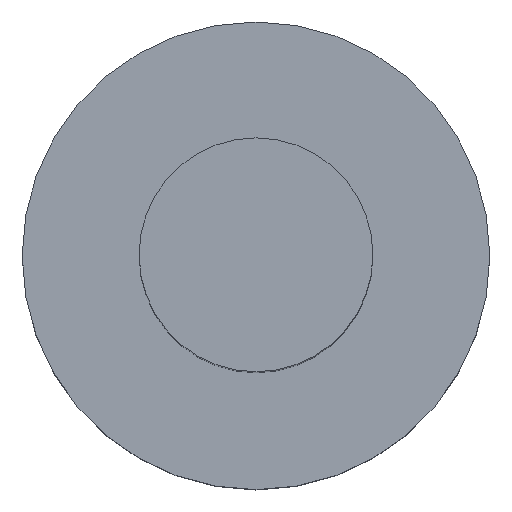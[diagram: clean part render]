
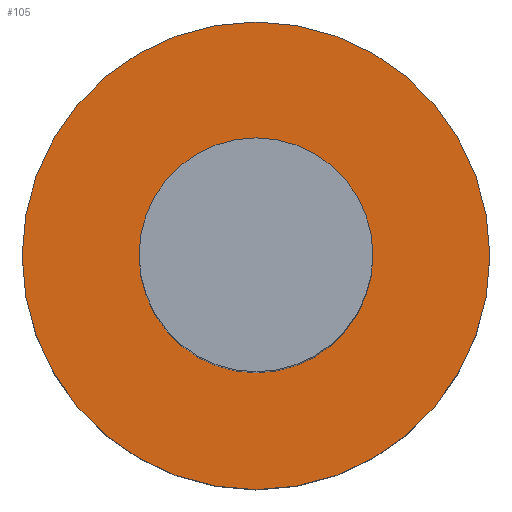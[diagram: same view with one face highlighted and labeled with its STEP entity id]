
A CAD part, top view. The second image highlights one B-rep face of the part: STEP entity #105.
In plain terms, the highlighted planar face has unit normal (0, 0, 1).
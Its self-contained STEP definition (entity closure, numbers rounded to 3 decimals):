
#21 = EDGE_CURVE('',#22,#22,#24,.T.);
#22 = VERTEX_POINT('',#23);
#23 = CARTESIAN_POINT('',(-5.,7.4,-10.9));
#24 = SURFACE_CURVE('',#25,(#30,#42),.PCURVE_S1.);
#25 = CIRCLE('',#26,2.);
#26 = AXIS2_PLACEMENT_3D('',#27,#28,#29);
#27 = CARTESIAN_POINT('',(-7.,7.4,-10.9));
#28 = DIRECTION('',(0.,0.,1.));
#29 = DIRECTION('',(1.,0.,-0.));
#30 = PCURVE('',#31,#36);
#31 = CYLINDRICAL_SURFACE('',#32,2.);
#32 = AXIS2_PLACEMENT_3D('',#33,#34,#35);
#33 = CARTESIAN_POINT('',(-7.,7.4,-12.5));
#34 = DIRECTION('',(0.,0.,1.));
#35 = DIRECTION('',(1.,0.,-0.));
#36 = DEFINITIONAL_REPRESENTATION('',(#37),#41);
#37 = LINE('',#38,#39);
#38 = CARTESIAN_POINT('',(0.,1.6));
#39 = VECTOR('',#40,1.);
#40 = DIRECTION('',(1.,0.));
#41 = ( GEOMETRIC_REPRESENTATION_CONTEXT(2) 
PARAMETRIC_REPRESENTATION_CONTEXT() REPRESENTATION_CONTEXT('2D SPACE',''
  ) );
#42 = PCURVE('',#43,#48);
#43 = PLANE('',#44);
#44 = AXIS2_PLACEMENT_3D('',#45,#46,#47);
#45 = CARTESIAN_POINT('',(-7.,7.4,-10.9));
#46 = DIRECTION('',(0.,0.,1.));
#47 = DIRECTION('',(1.,0.,-0.));
#48 = DEFINITIONAL_REPRESENTATION('',(#49),#53);
#49 = CIRCLE('',#50,2.);
#50 = AXIS2_PLACEMENT_2D('',#51,#52);
#51 = CARTESIAN_POINT('',(0.,0.));
#52 = DIRECTION('',(1.,0.));
#53 = ( GEOMETRIC_REPRESENTATION_CONTEXT(2) 
PARAMETRIC_REPRESENTATION_CONTEXT() REPRESENTATION_CONTEXT('2D SPACE',''
  ) );
#105 = ADVANCED_FACE('',(#106,#109),#43,.T.);
#106 = FACE_BOUND('',#107,.T.);
#107 = EDGE_LOOP('',(#108));
#108 = ORIENTED_EDGE('',*,*,#21,.T.);
#109 = FACE_BOUND('',#110,.T.);
#110 = EDGE_LOOP('',(#111));
#111 = ORIENTED_EDGE('',*,*,#112,.F.);
#112 = EDGE_CURVE('',#113,#113,#115,.T.);
#113 = VERTEX_POINT('',#114);
#114 = CARTESIAN_POINT('',(-6.,7.4,-10.9));
#115 = SURFACE_CURVE('',#116,(#121,#128),.PCURVE_S1.);
#116 = CIRCLE('',#117,1.);
#117 = AXIS2_PLACEMENT_3D('',#118,#119,#120);
#118 = CARTESIAN_POINT('',(-7.,7.4,-10.9));
#119 = DIRECTION('',(0.,0.,1.));
#120 = DIRECTION('',(1.,0.,-0.));
#121 = PCURVE('',#43,#122);
#122 = DEFINITIONAL_REPRESENTATION('',(#123),#127);
#123 = CIRCLE('',#124,1.);
#124 = AXIS2_PLACEMENT_2D('',#125,#126);
#125 = CARTESIAN_POINT('',(0.,0.));
#126 = DIRECTION('',(1.,0.));
#127 = ( GEOMETRIC_REPRESENTATION_CONTEXT(2) 
PARAMETRIC_REPRESENTATION_CONTEXT() REPRESENTATION_CONTEXT('2D SPACE',''
  ) );
#128 = PCURVE('',#129,#134);
#129 = CYLINDRICAL_SURFACE('',#130,1.);
#130 = AXIS2_PLACEMENT_3D('',#131,#132,#133);
#131 = CARTESIAN_POINT('',(-7.,7.4,-10.9));
#132 = DIRECTION('',(0.,0.,1.));
#133 = DIRECTION('',(1.,0.,-0.));
#134 = DEFINITIONAL_REPRESENTATION('',(#135),#139);
#135 = LINE('',#136,#137);
#136 = CARTESIAN_POINT('',(0.,0.));
#137 = VECTOR('',#138,1.);
#138 = DIRECTION('',(1.,0.));
#139 = ( GEOMETRIC_REPRESENTATION_CONTEXT(2) 
PARAMETRIC_REPRESENTATION_CONTEXT() REPRESENTATION_CONTEXT('2D SPACE',''
  ) );
